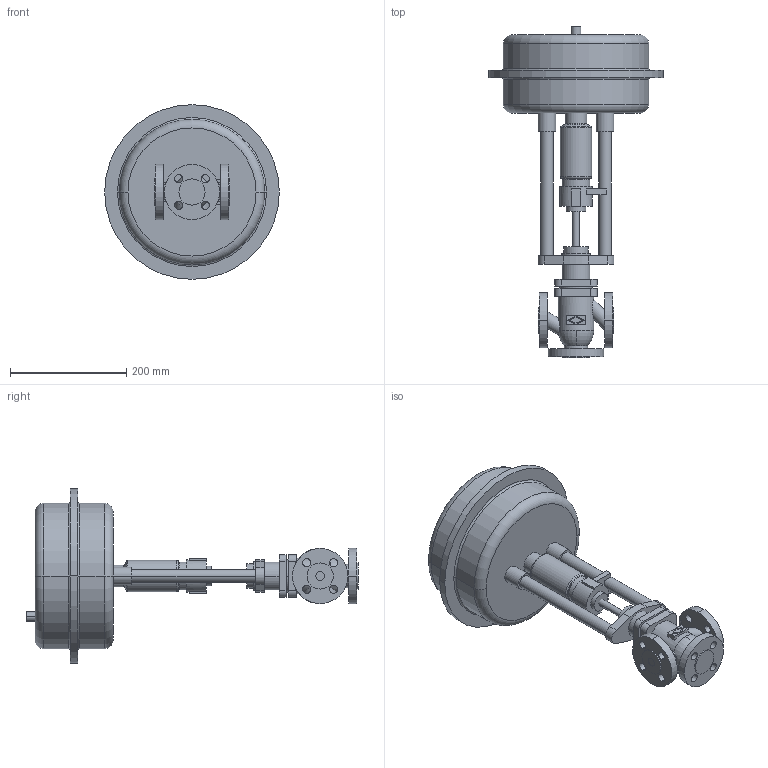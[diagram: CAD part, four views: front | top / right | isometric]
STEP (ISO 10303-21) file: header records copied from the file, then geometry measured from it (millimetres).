
FILE_DESCRIPTION(('OneSpaceDesigner STEP Export'),'2;1');
FILE_NAME('c000000680.stp','2006-09-19T10:11:48',(''),(''),'OneSpace Designer STEP processor for AP214 (Solid Model)','OneSpace Designer 13.20A 18-Aug-2005 (C) CoCreate Software GmbH','');
FILE_SCHEMA(('AUTOMOTIVE_DESIGN { 1 0 10303 214 1 1 1 1 }'));
Length unit declared in the file: millimetre
Products named in the file (2): 1; 2
Bounding box: 300 x 570.6 x 300 mm (x, y, z)
Volume: 8222659.2 mm3; surface area: 425518.9 mm2
Topology: 2 solids, 2 shells, 204 faces, 497 edges, 326 vertices
Faces by surface type: cylinder 103, plane 79, torus 18, cone 4
Entity records: 5652 total; most frequent: CARTESIAN_POINT 1224, ORIENTED_EDGE 994, DIRECTION 804, EDGE_CURVE 497, VERTEX_POINT 326, AXIS2_PLACEMENT_3D 291, EDGE_LOOP 257, VECTOR 222
